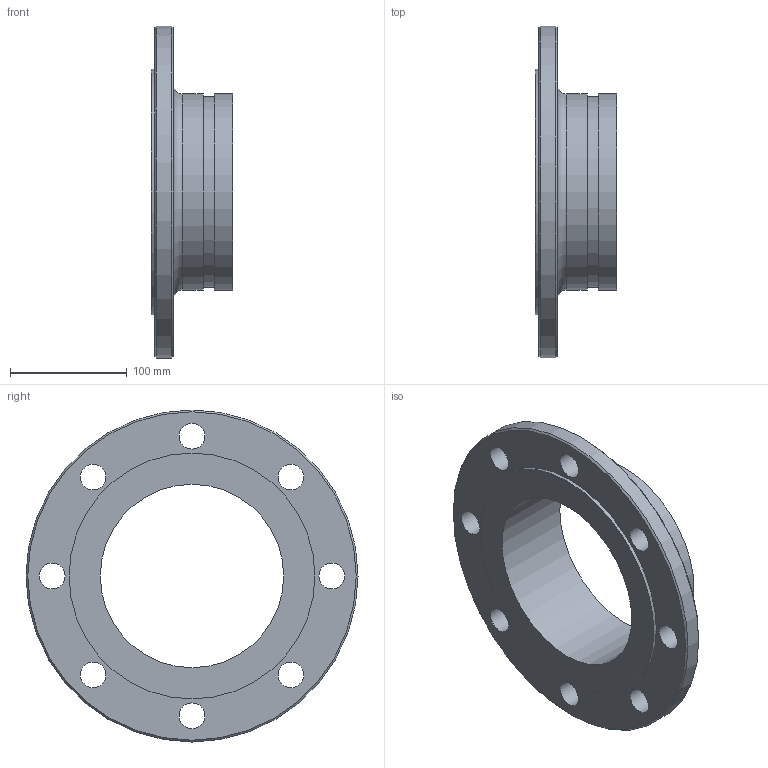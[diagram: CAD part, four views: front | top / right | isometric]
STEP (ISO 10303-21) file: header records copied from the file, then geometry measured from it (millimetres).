
FILE_DESCRIPTION(/* description */ ('VIC FLG ADPTR NIP PN10 RF No 45RE (OGSxFLG)'),/* implementation_level */ '2;1');
FILE_NAME(/* name */ 'C:\Users\vjadhav\OneDrive - Victaulic Company\Desktop\New folder\Victaulic_IPS_Flgd Adptr Nip_PN10 RF_No 45RE (OGSxFLG)\Victaulic_IPS_Flgd Adptr Nip_PN10 RF_No 45RE (OGSxFLG)_6 (150).stp',/* time_stamp */ '2024-04-01T13:02:24+02:00',/* author */ ('jheald'),/* organization */ ('Victaulic'),/* preprocessor_version */ 'ST-DEVELOPER v18.1',/* originating_system */ 'Autodesk Inventor 2020',/* authorisation */ '');
FILE_SCHEMA (('AUTOMOTIVE_DESIGN { 1 0 10303 214 3 1 1 }'));
Length unit declared in the file: inch
Products named in the file (1): 045RE-06.0
Bounding box: 70.1 x 284.99 x 284.99 mm (x, y, z)
Volume: 841906.1 mm3; surface area: 168146.3 mm2
Topology: 1 solids, 1 shells, 23 faces, 62 edges, 45 vertices
Faces by surface type: cylinder 14, plane 6, cone 2, torus 1
Full cylindrical faces by diameter (mm): 22.098 x8, 157.48 x1, 163.957 x1, 168.275 x2, 210.998 x1, 284.988 x1
Entity records: 872 total; most frequent: DIRECTION 156, CARTESIAN_POINT 131, ORIENTED_EDGE 124, AXIS2_PLACEMENT_3D 70, EDGE_CURVE 62, CIRCLE 46, EDGE_LOOP 45, VERTEX_POINT 45
